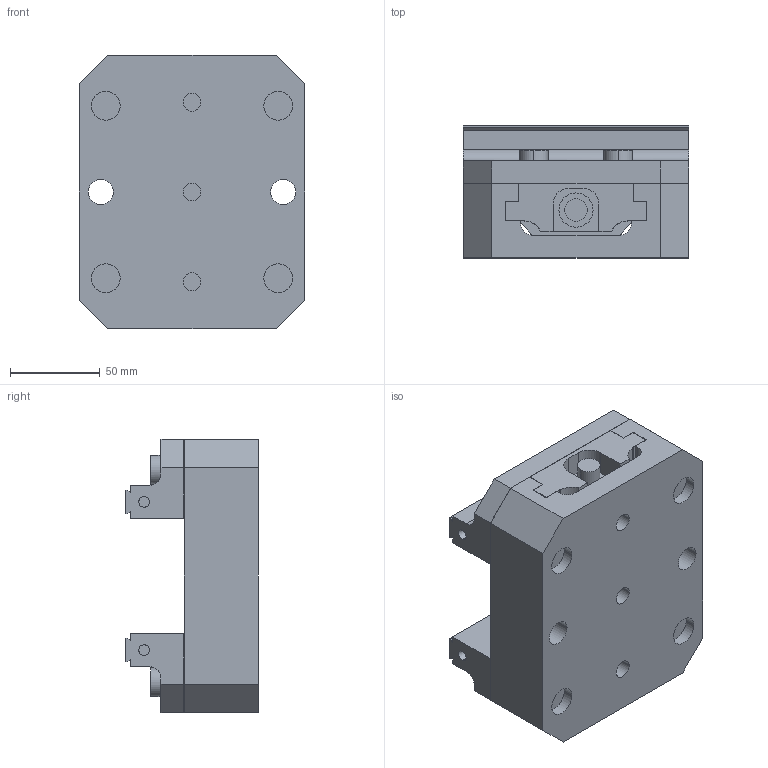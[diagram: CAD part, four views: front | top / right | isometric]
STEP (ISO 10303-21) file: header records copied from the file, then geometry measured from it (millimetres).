
FILE_DESCRIPTION (( 'STEP AP214' ), '1' );
FILE_NAME ('D_V562M.STEP', '2020-03-12T23:01:17', ( '' ), ( '' ), 'SwSTEP 2.0', 'SolidWorks 2018', '' );
FILE_SCHEMA (( 'AUTOMOTIVE_DESIGN' ));
Length unit declared in the file: millimetre
Products named in the file (4): D_V562M-1; D_V562M; D_V562M-5; D_V562M-2
Assembly tree (5 placements, depth 2):
  D_V562M
    D_V562M-1
    D_V562M-2  x2
    D_V562M-5  x2
Bounding box: 125.73 x 73.65 x 152.4 mm (x, y, z)
Volume: 818381.6 mm3; surface area: 157124.5 mm2
Topology: 5 solids, 5 shells, 247 faces, 650 edges, 428 vertices
Faces by surface type: plane 145, cylinder 102
Entity records: 6167 total; most frequent: CARTESIAN_POINT 1091, DIRECTION 889, ORIENTED_EDGE 846, EDGE_CURVE 423, AXIS2_PLACEMENT_3D 310, VERTEX_POINT 278, VECTOR 269, LINE 269
